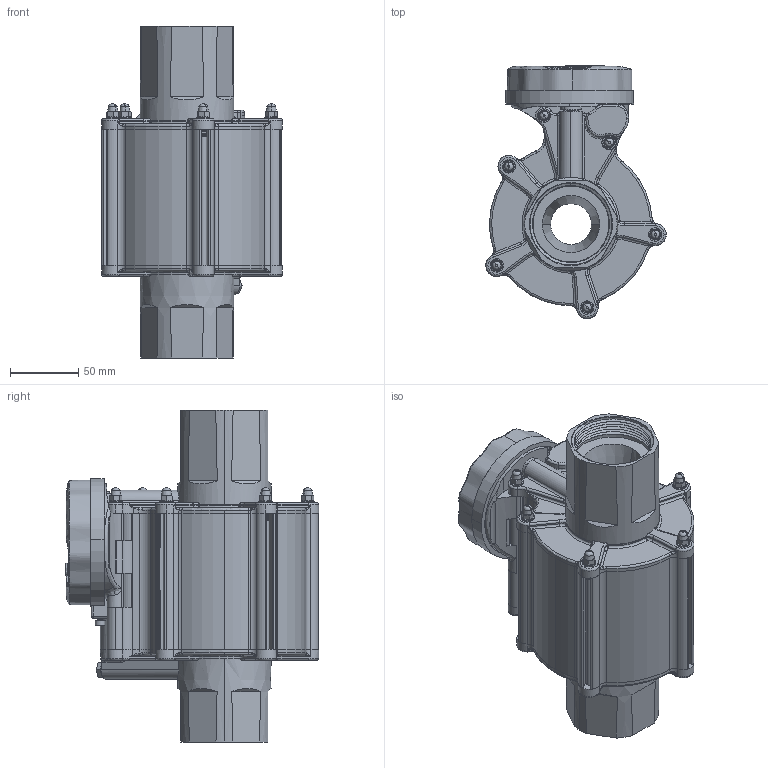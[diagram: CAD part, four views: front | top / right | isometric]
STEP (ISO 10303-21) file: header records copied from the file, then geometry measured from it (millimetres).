
FILE_DESCRIPTION (( 'STEP AP214' ), '1' );
FILE_NAME ('PAPXL050-FFG.STEP', '2020-02-04T15:45:22', ( 'Windows User' ), ( 'Watts Water' ), 'SwSTEP 2.0', 'SolidWorks 2017', '' );
FILE_SCHEMA (( 'AUTOMOTIVE_DESIGN' ));
Length unit declared in the file: millimetre
Products named in the file (1): PAPXL050-FFG
Bounding box: 132.5 x 186.14 x 244 mm (x, y, z)
Surface area: 197298.9 mm2 (no closed solid volume)
Topology: 0 solids, 77 shells, 1202 faces, 3949 edges, 2685 vertices
Faces by surface type: plane 362, cylinder 356, bspline 206, torus 146, cone 122, sphere 10
Entity records: 87424 total; most frequent: CARTESIAN_POINT 42304, ORIENTED_EDGE 6477, DIRECTION 6329, EDGE_CURVE 3890, VERTEX_POINT 2684, AXIS2_PLACEMENT_3D 2472, CIRCLE 1475, VECTOR 1385
